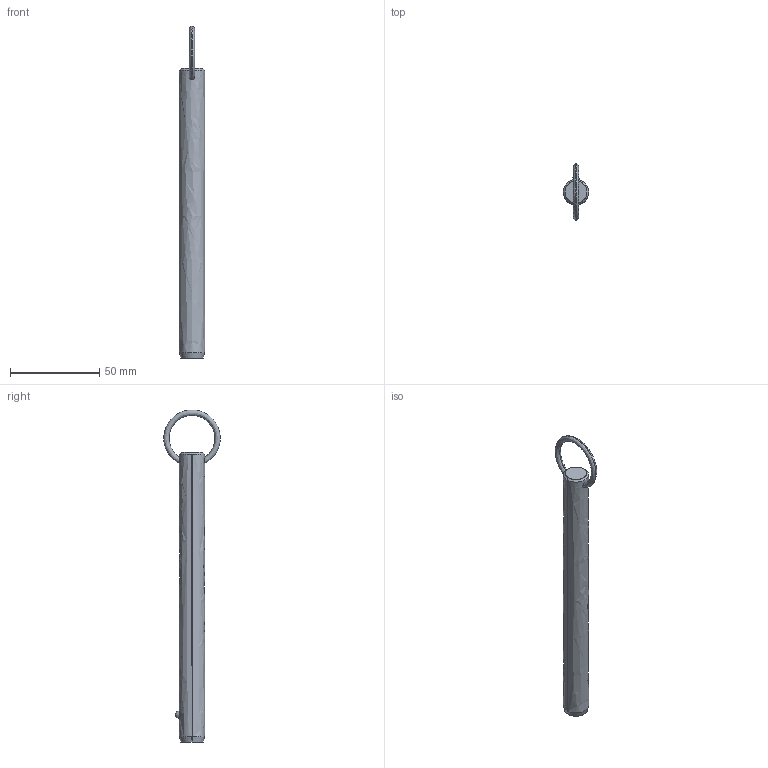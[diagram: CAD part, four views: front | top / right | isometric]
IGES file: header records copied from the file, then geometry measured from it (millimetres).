
Start section: SolidWorks IGES file using analytic representation for surfaces
Global section: file name: C:\Users\liam_\OneDrive\Documents\WORK\Work for WixRoyd\Job Files\J-00019 - Matt Davis CAD Checking\04. CAD Drawings\automotion20190605\P1250.2_v2\P1250.2_v2_20190729_IGES\P1250.056-540.igs; native system: SolidWorks 2017; preprocessor: SolidWorks 2017; author: liam_; date: 190729.232532; units: millimetre
Bounding box: 14.2 x 31.69 x 186.29 mm (x, y, z)
Surface area: 8215.1 mm2 (no closed solid volume)
Topology: 0 solids, 0 shells, 12 faces, 285 edges, 283 vertices
Faces by surface type: revolution 8, bspline 4
